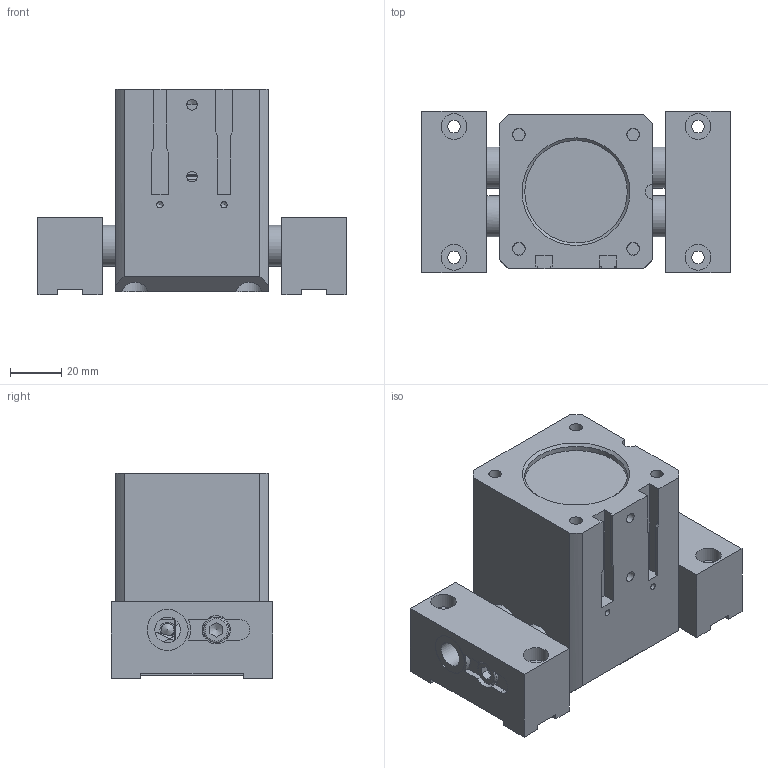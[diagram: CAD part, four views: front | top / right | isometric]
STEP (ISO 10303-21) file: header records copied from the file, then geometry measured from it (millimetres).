
FILE_DESCRIPTION((''),'2;1');
FILE_NAME('T:\CAD\Standard\Daten\3D-Datenbank\GP\4 - 3D-CAD-Daten GP 050-125\GP080\step-Daten\G-GP080-l1-GS+UB open.stp','2013-11-07T10:03:46',('Dirk'),(''),'Autodesk Inventor 2011','Autodesk Inventor 2011','');
FILE_SCHEMA(('AUTOMOTIVE_DESIGN { 1 0 10303 214 1 1 1 1 }'));
Length unit declared in the file: millimetre
Products named in the file (1): Bauteil15
Bounding box: 120.19 x 63 x 80 mm (x, y, z)
Volume: 330454.3 mm3; surface area: 90528.3 mm2
Topology: 20 solids, 20 shells, 415 faces, 1068 edges, 694 vertices
Faces by surface type: plane 237, cylinder 116, cone 34, torus 27, bspline 1
Full cylindrical faces by diameter (mm): 2.459 x2, 4.134 x2, 4.917 x8, 5 x2, 6 x6, 6.5 x4, 6.6 x2, 8.376 x1, 10 x13, 10.5 x1, 11 x8, 16 x6, 18 x7, 20 x2, 24.4 x2, 26 x1, 35 x1, 36 x1, 40 x2, 40.2 x2, 47.1 x2, 50 x5
Entity records: 12808 total; most frequent: CARTESIAN_POINT 3058, DIRECTION 1916, ORIENTED_EDGE 1700, EDGE_CURVE 850, AXIS2_PLACEMENT_3D 737, EDGE_LOOP 630, VERTEX_POINT 613, VECTOR 442
